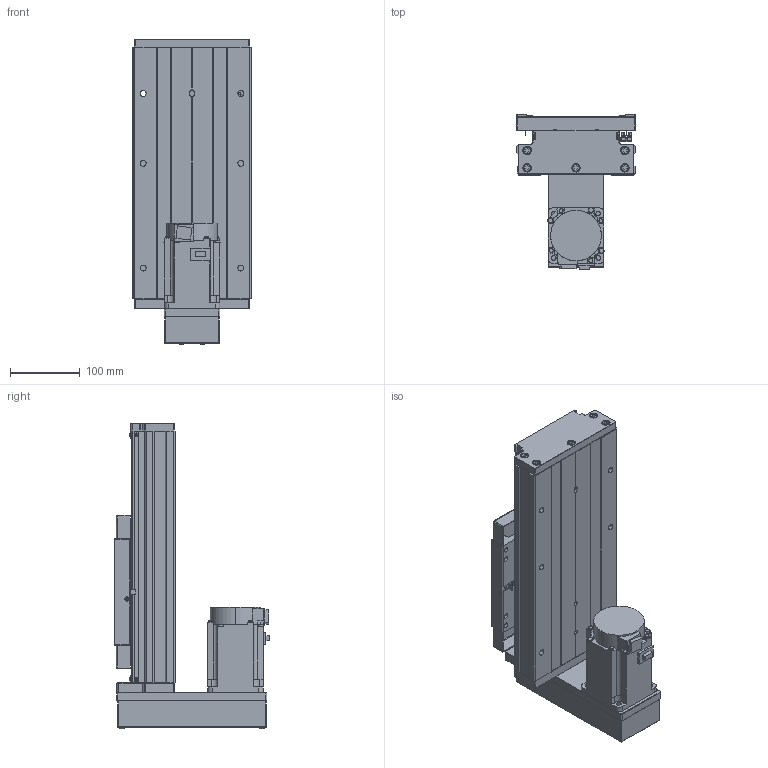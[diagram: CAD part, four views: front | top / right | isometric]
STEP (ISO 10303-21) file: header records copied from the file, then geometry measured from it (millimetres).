
FILE_DESCRIPTION (( 'STEP AP203' ), '1' );
FILE_NAME ('GTH17-100-BM-M75-C4.step', '2023-06-30T12:37:32', ( '微软用户' ), ( '微软中国' ), 'SwSTEP 2.0', 'SolidWorks 2020', '' );
FILE_SCHEMA (( 'CONFIG_CONTROL_DESIGN' ));
Length unit declared in the file: millimetre
Products named in the file (19): GTH17-031; GTH17-100-BM-M75-C4; CTHA60-017; GBT 70.2-M3¡Á5_M3¡Á6; EE_SX911P_R; す晦芛蹟隊 M3℅5; GTH17-001_100; CTHA60-016; HG-KN73J-S100; GTH17-002_GTH17-002; GBT 70.1-M3℅5; GBT 70.2-M4¡Á45_M4¡Á35; GTH17-004; GBT77-2000 M3×3; GTH17-015-2_CTHA86-015-2; GTH17-005; GBT 70.1-M6¡Á20_M6¡Á20; GTH17-033; GB1155-6X6
Assembly tree (58 placements, depth 2):
  GTH17-100-BM-M75-C4
    GTH17-001_100
    GTH17-002_GTH17-002
    GTH17-004
    GTH17-005
    GB1155-6X6  x2
    CTHA60-017  x3
    EE_SX911P_R  x3
    CTHA60-016  x2
    GBT 70.1-M3℅5  x6
    GBT77-2000 M3×3  x6
    GBT 70.1-M6¡Á20_M6¡Á20  x10
    GTH17-031
    GBT 70.2-M3¡Á5_M3¡Á6  x8
    す晦芛蹟隊 M3℅5  x6
    HG-KN73J-S100
    GBT 70.2-M4¡Á45_M4¡Á35  x4
    GTH17-015-2_CTHA86-015-2
    GTH17-033
Bounding box: 171 x 222.3 x 438.2 mm (x, y, z)
Volume: 4274763.5 mm3; surface area: 731659 mm2
Topology: 61 solids, 61 shells, 2419 faces, 5773 edges, 3571 vertices
Faces by surface type: plane 1304, cylinder 642, cone 297, torus 124, sphere 32, bspline 20
Entity records: 43814 total; most frequent: CARTESIAN_POINT 10216, DIRECTION 6301, ORIENTED_EDGE 6258, EDGE_CURVE 3129, AXIS2_PLACEMENT_3D 2134, VECTOR 2033, LINE 2033, VERTEX_POINT 1983
